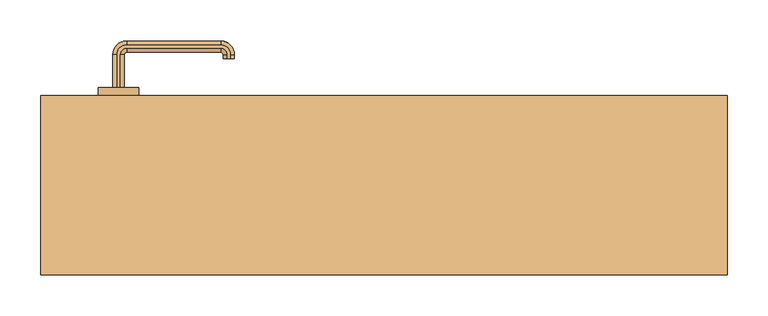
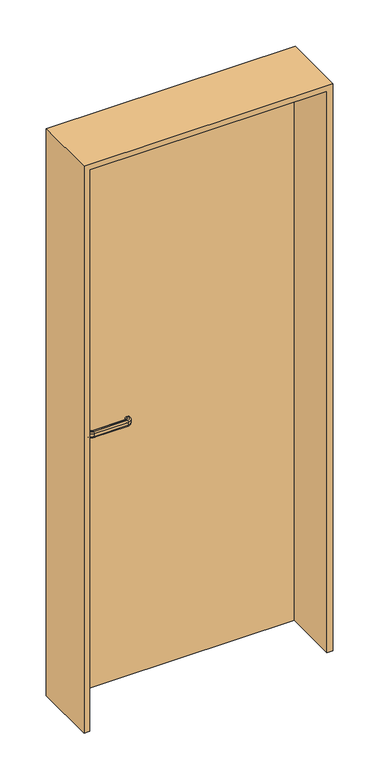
"""IFC4 building model written with IfcOpenShell, lengths in millimetres: door geometry, 鋼製_片開きマンション黒 : SD-1 w800h2000."""

from ifc_helpers import new_model, si_unit, point, frame, frame_2d, origin, origin_with_axes, place, context, project, spatial, polyline, circle_curve, ellipse_curve, trimmed, segment, composite_curve, outline, extrude, source, transform, mapped, element, save
from ifc_brep_helpers import plane_surface, cylinder_surface, revolved_surface, advanced_brep


def door_02215395(model_context):
    return source(origin(), model_context, "Body", "SolidModel", [
        advanced_brep(
        [(-327.0, 120.0, 960.0), (-332.0, 120.0, 955.0), (-332.0, 120.0, 945.0477623), (-327.0, 120.0, 940.0477623), (-323.0, 120.0, 940.0477623), (-318.0, 120.0, 945.0477623), (-318.0, 120.0, 955.0), (-323.0, 120.0, 960.0), (-327.0, 160.0, 960.0), (-332.0, 160.0, 955.0), (-332.0, 160.0, 945.0477623), (-327.0, 160.0, 940.0477623), (-315.0, 172.0, 940.0477623), (-200.0, 172.0, 940.0477623), (-188.0, 160.0, 940.0477623), (-188.0, 155.0, 940.0477623), (-192.0, 155.0, 940.0477623), (-192.0, 160.0, 940.0477623), (-200.0, 168.0, 940.0477623), (-315.0, 168.0, 940.0477623), (-323.0, 160.0, 940.0477623), (-318.0, 160.0, 945.0477623), (-318.0, 160.0, 955.0), (-323.0, 160.0, 960.0), (-315.0, 168.0, 960.0), (-200.0, 168.0, 960.0), (-192.0, 160.0, 960.0), (-192.0, 155.0, 960.0), (-188.0, 155.0, 960.0), (-188.0, 160.0, 960.0), (-200.0, 172.0, 960.0), (-315.0, 172.0, 960.0), (-315.0, 177.0, 955.0), (-315.0, 177.0, 945.0477623), (-315.0, 163.0, 945.0477623), (-315.0, 163.0, 955.0), (-200.0, 177.0, 955.0), (-200.0, 177.0, 945.0477623), (-200.0, 163.0, 945.0477623), (-200.0, 163.0, 955.0), (-183.0, 160.0, 955.0), (-183.0, 160.0, 945.0477623), (-197.0, 160.0, 945.0477623), (-197.0, 160.0, 955.0), (-197.0, 155.0, 955.0), (-197.0, 155.0, 945.0477623), (-183.0, 155.0, 945.0477623), (-183.0, 155.0, 955.0)],
        [
            (0, 1, circle_curve(frame((-327.0, 120.0, 955.0), z_axis=(0.0, -1.0, 0.0), x_axis=(-1.0, 0.0, 0.0)), 5.0)),
            (1, 2),
            (2, 3, circle_curve(frame((-327.0, 120.0, 945.0477623), z_axis=(0.0, -1.0, 0.0), x_axis=(-1.0, 0.0, 0.0)), 5.0)),
            (3, 4),
            (4, 5, circle_curve(frame((-323.0, 120.0, 945.0477623), z_axis=(0.0, -1.0, 0.0), x_axis=(-1.0, 0.0, 0.0)), 5.0)),
            (5, 6),
            (6, 7, circle_curve(frame((-323.0, 120.0, 955.0), z_axis=(0.0, -1.0, 0.0), x_axis=(-1.0, 0.0, 0.0)), 5.0)),
            (7, 0),
            (0, 8),
            (8, 9, circle_curve(frame((-327.0, 160.0, 955.0), z_axis=(0.0, -1.0, 0.0), x_axis=(-1.0, 0.0, 0.0)), 5.0)),
            (9, 1),
            (9, 10),
            (10, 2),
            (10, 11, circle_curve(frame((-327.0, 160.0, 945.0477623), z_axis=(0.0, -1.0, 0.0), x_axis=(-1.0, 0.0, 0.0)), 5.0)),
            (11, 3),
            (11, 12, circle_curve(frame((-315.0, 160.0, 940.0477623), z_axis=(0.0, 0.0, -1.0), x_axis=(-1.0, 0.0, 0.0)), 12.0)),
            (12, 13),
            (13, 14, circle_curve(frame((-200.0, 160.0, 940.0477623), z_axis=(0.0, 0.0, -1.0), x_axis=(0.0, 1.0, 0.0)), 12.0)),
            (14, 15),
            (15, 16),
            (16, 17),
            (17, 18, circle_curve(frame((-200.0, 160.0, 940.0477623), z_axis=(0.0, 0.0, 1.0), x_axis=(0.0, 1.0, 0.0)), 8.0)),
            (18, 19),
            (19, 20, circle_curve(frame((-315.0, 160.0, 940.0477623), z_axis=(0.0, 0.0, 1.0), x_axis=(-1.0, 0.0, 0.0)), 8.0)),
            (20, 4),
            (20, 21, circle_curve(frame((-323.0, 160.0, 945.0477623), z_axis=(0.0, -1.0, 0.0), x_axis=(-1.0, 0.0, 0.0)), 5.0)),
            (21, 5),
            (21, 22),
            (22, 6),
            (22, 23, circle_curve(frame((-323.0, 160.0, 955.0), z_axis=(0.0, -1.0, 0.0), x_axis=(-1.0, 0.0, 0.0)), 5.0)),
            (23, 7),
            (23, 24, circle_curve(frame((-315.0, 160.0, 960.0), z_axis=(0.0, 0.0, -1.0), x_axis=(-1.0, 0.0, 0.0)), 8.0)),
            (24, 25),
            (25, 26, circle_curve(frame((-200.0, 160.0, 960.0), z_axis=(0.0, 0.0, -1.0), x_axis=(0.0, 1.0, 0.0)), 8.0)),
            (26, 27),
            (27, 28),
            (28, 29),
            (29, 30, circle_curve(frame((-200.0, 160.0, 960.0), z_axis=(0.0, 0.0, 1.0), x_axis=(0.0, 1.0, 0.0)), 12.0)),
            (30, 31),
            (31, 8, circle_curve(frame((-315.0, 160.0, 960.0), z_axis=(0.0, 0.0, 1.0), x_axis=(-1.0, 0.0, 0.0)), 12.0)),
            (32, 9, circle_curve(frame((-315.0, 160.0, 955.0), z_axis=(0.0, 0.0, 1.0), x_axis=(-1.0, 0.0, 0.0)), 17.0)),
            (31, 32, circle_curve(frame((-315.0, 172.0, 955.0), z_axis=(-1.0, 0.0, 0.0), x_axis=(0.0, 1.0, 0.0)), 5.0)),
            (33, 10, circle_curve(frame((-315.0, 160.0, 945.0477623), z_axis=(0.0, 0.0, 1.0), x_axis=(-1.0, 0.0, 0.0)), 17.0)),
            (32, 33),
            (33, 12, circle_curve(frame((-315.0, 172.0, 945.0477623), z_axis=(-1.0, 0.0, 0.0), x_axis=(0.0, 1.0, 0.0)), 5.0)),
            (34, 21, circle_curve(frame((-315.0, 160.0, 945.0477623), z_axis=(0.0, 0.0, 1.0), x_axis=(-1.0, 0.0, 0.0)), 3.0)),
            (19, 34, circle_curve(frame((-315.0, 168.0, 945.0477623), z_axis=(-1.0, 0.0, 0.0), x_axis=(0.0, 1.0, 0.0)), 5.0)),
            (35, 22, circle_curve(frame((-315.0, 160.0, 955.0), z_axis=(0.0, 0.0, 1.0), x_axis=(-1.0, 0.0, 0.0)), 3.0)),
            (34, 35),
            (35, 24, circle_curve(frame((-315.0, 168.0, 955.0), z_axis=(-1.0, 0.0, 0.0), x_axis=(0.0, 1.0, 0.0)), 5.0)),
            (30, 36, circle_curve(frame((-200.0, 172.0, 955.0), z_axis=(-1.0, 0.0, 0.0), x_axis=(0.0, 1.0, 0.0)), 5.0)),
            (36, 32),
            (36, 37),
            (37, 33),
            (37, 13, circle_curve(frame((-200.0, 172.0, 945.0477623), z_axis=(-1.0, 0.0, 0.0), x_axis=(0.0, 1.0, 0.0)), 5.0)),
            (18, 38, circle_curve(frame((-200.0, 168.0, 945.0477623), z_axis=(-1.0, 0.0, 0.0), x_axis=(0.0, 1.0, 0.0)), 5.0)),
            (38, 34),
            (38, 39),
            (39, 35),
            (39, 25, circle_curve(frame((-200.0, 168.0, 955.0), z_axis=(-1.0, 0.0, 0.0), x_axis=(0.0, 1.0, 0.0)), 5.0)),
            (40, 36, circle_curve(frame((-200.0, 160.0, 955.0), z_axis=(0.0, 0.0, 1.0), x_axis=(0.0, 1.0, 0.0)), 17.0)),
            (29, 40, circle_curve(frame((-188.0, 160.0, 955.0), z_axis=(0.0, 1.0, 0.0), x_axis=(1.0, 0.0, 0.0)), 5.0)),
            (41, 37, circle_curve(frame((-200.0, 160.0, 945.0477623), z_axis=(0.0, 0.0, 1.0), x_axis=(0.0, 1.0, 0.0)), 17.0)),
            (40, 41),
            (41, 14, circle_curve(frame((-188.0, 160.0, 945.0477623), z_axis=(0.0, 1.0, 0.0), x_axis=(1.0, 0.0, 0.0)), 5.0)),
            (42, 38, circle_curve(frame((-200.0, 160.0, 945.0477623), z_axis=(0.0, 0.0, 1.0), x_axis=(0.0, 1.0, 0.0)), 3.0)),
            (17, 42, circle_curve(frame((-192.0, 160.0, 945.0477623), z_axis=(0.0, 1.0, 0.0), x_axis=(1.0, 0.0, 0.0)), 5.0)),
            (43, 39, circle_curve(frame((-200.0, 160.0, 955.0), z_axis=(0.0, 0.0, 1.0), x_axis=(0.0, 1.0, 0.0)), 3.0)),
            (42, 43),
            (43, 26, circle_curve(frame((-192.0, 160.0, 955.0), z_axis=(0.0, 1.0, 0.0), x_axis=(1.0, 0.0, 0.0)), 5.0)),
            (27, 44, circle_curve(frame((-192.0, 155.0, 955.0), z_axis=(0.0, -1.0, 0.0), x_axis=(1.0, 0.0, 0.0)), 5.0)),
            (44, 45),
            (45, 16, circle_curve(frame((-192.0, 155.0, 945.0477623), z_axis=(0.0, -1.0, 0.0), x_axis=(1.0, 0.0, 0.0)), 5.0)),
            (15, 46, circle_curve(frame((-188.0, 155.0, 945.0477623), z_axis=(0.0, -1.0, 0.0), x_axis=(1.0, 0.0, 0.0)), 5.0)),
            (46, 47),
            (47, 28, circle_curve(frame((-188.0, 155.0, 955.0), z_axis=(0.0, -1.0, 0.0), x_axis=(1.0, 0.0, 0.0)), 5.0)),
            (47, 40),
            (46, 41),
            (45, 42),
            (44, 43),
        ],
        [
            plane_surface(frame((-335.198039, 120.0, 950.0), z_axis=(0.0, -1.0, 0.0), x_axis=(0.0, 0.0, 1.0))),
            cylinder_surface(frame((-327.0, 120.0, 955.0), z_axis=(0.0, -1.0, 0.0), x_axis=(-1.0, 0.0, 0.0)), 5.0),
            plane_surface(frame((-332.0, 120.0, 955.0), z_axis=(-1.0, 0.0, 0.0), x_axis=(0.0, 1.0, 0.0))),
            cylinder_surface(frame((-327.0, 120.0, 945.0477623), z_axis=(0.0, -1.0, 0.0), x_axis=(-1.0, 0.0, 0.0)), 5.0),
            plane_surface(frame((-327.0, 120.0, 940.0477623), z_axis=(0.0, 0.0, -1.0), x_axis=(0.0, 1.0, 0.0))),
            cylinder_surface(frame((-323.0, 120.0, 945.0477623), z_axis=(0.0, -1.0, 0.0), x_axis=(-1.0, 0.0, 0.0)), 5.0),
            plane_surface(frame((-318.0, 120.0, 945.0477623), z_axis=(1.0, 0.0, 0.0), x_axis=(0.0, 1.0, 0.0))),
            cylinder_surface(frame((-323.0, 120.0, 955.0), z_axis=(0.0, -1.0, 0.0), x_axis=(-1.0, 0.0, 0.0)), 5.0),
            plane_surface(frame((-323.0, 120.0, 960.0), z_axis=(0.0, 0.0, 1.0), x_axis=(0.0, 1.0, 0.0))),
            revolved_surface(trimmed(ellipse_curve(frame((-327.0, 160.0, 955.0), z_axis=(0.0, -1.0, 0.0), x_axis=(-1.0, 0.0, 0.0)), 5.0, 5.0), [point((-327.0, 160.0, 960.0))], [point((-332.0, 160.0, 955.0))], True, "CARTESIAN"), (-315.0, 160.0, 950.0), (0.0, 0.0, -1.0)),
            cylinder_surface(frame((-315.0, 160.0, 950.0), z_axis=(0.0, 0.0, -1.0), x_axis=(-1.0, 0.0, 0.0)), 17.0),
            revolved_surface(trimmed(ellipse_curve(frame((-327.0, 160.0, 945.0477623), z_axis=(0.0, -1.0, 0.0), x_axis=(-1.0, 0.0, 0.0)), 5.0, 5.0), [point((-332.0, 160.0, 945.0477623))], [point((-327.0, 160.0, 940.0477623))], True, "CARTESIAN"), (-315.0, 160.0, 950.0), (0.0, 0.0, -1.0)),
            revolved_surface(trimmed(ellipse_curve(frame((-323.0, 160.0, 945.0477623), z_axis=(0.0, -1.0, 0.0), x_axis=(-1.0, 0.0, 0.0)), 5.0, 5.0), [point((-323.0, 160.0, 940.0477623))], [point((-318.0, 160.0, 945.0477623))], True, "CARTESIAN"), (-315.0, 160.0, 950.0), (0.0, 0.0, -1.0)),
            revolved_surface(polyline([(-318.0, 160.0, 945.0477623), (-318.0, 160.0, 955.0)]), (-315.0, 160.0, 950.0), (0.0, 0.0, -1.0)),
            revolved_surface(trimmed(ellipse_curve(frame((-323.0, 160.0, 955.0), z_axis=(0.0, -1.0, 0.0), x_axis=(-1.0, 0.0, 0.0)), 5.0, 5.0), [point((-318.0, 160.0, 955.0))], [point((-323.0, 160.0, 960.0))], True, "CARTESIAN"), (-315.0, 160.0, 950.0), (0.0, 0.0, -1.0)),
            cylinder_surface(frame((-315.0, 172.0, 955.0), z_axis=(-1.0, 0.0, 0.0), x_axis=(0.0, 1.0, 0.0)), 5.0),
            plane_surface(frame((-315.0, 177.0, 955.0), z_axis=(0.0, 1.0, 0.0), x_axis=(1.0, 0.0, 0.0))),
            cylinder_surface(frame((-315.0, 172.0, 945.0477623), z_axis=(-1.0, 0.0, 0.0), x_axis=(0.0, 1.0, 0.0)), 5.0),
            cylinder_surface(frame((-315.0, 168.0, 945.0477623), z_axis=(-1.0, 0.0, 0.0), x_axis=(0.0, 1.0, 0.0)), 5.0),
            plane_surface(frame((-315.0, 163.0, 945.0477623), z_axis=(0.0, -1.0, 0.0), x_axis=(1.0, 0.0, 0.0))),
            cylinder_surface(frame((-315.0, 168.0, 955.0), z_axis=(-1.0, 0.0, 0.0), x_axis=(0.0, 1.0, 0.0)), 5.0),
            revolved_surface(trimmed(ellipse_curve(frame((-200.0, 172.0, 955.0), z_axis=(-1.0, 0.0, 0.0), x_axis=(0.0, 1.0, 0.0)), 5.0, 5.0), [point((-200.0, 172.0, 960.0))], [point((-200.0, 177.0, 955.0))], True, "CARTESIAN"), (-200.0, 160.0, 950.0), (0.0, 0.0, -1.0)),
            cylinder_surface(frame((-200.0, 160.0, 950.0), z_axis=(0.0, 0.0, -1.0), x_axis=(0.0, 1.0, 0.0)), 17.0),
            revolved_surface(trimmed(ellipse_curve(frame((-200.0, 172.0, 945.0477623), z_axis=(-1.0, 0.0, 0.0), x_axis=(0.0, 1.0, 0.0)), 5.0, 5.0), [point((-200.0, 177.0, 945.0477623))], [point((-200.0, 172.0, 940.0477623))], True, "CARTESIAN"), (-200.0, 160.0, 950.0), (0.0, 0.0, -1.0)),
            revolved_surface(trimmed(ellipse_curve(frame((-200.0, 168.0, 945.0477623), z_axis=(-1.0, 0.0, 0.0), x_axis=(0.0, 1.0, 0.0)), 5.0, 5.0), [point((-200.0, 168.0, 940.0477623))], [point((-200.0, 163.0, 945.0477623))], True, "CARTESIAN"), (-200.0, 160.0, 950.0), (0.0, 0.0, -1.0)),
            revolved_surface(polyline([(-200.0, 163.0, 945.0477623), (-200.0, 163.0, 955.0)]), (-200.0, 160.0, 950.0), (0.0, 0.0, -1.0)),
            revolved_surface(trimmed(ellipse_curve(frame((-200.0, 168.0, 955.0), z_axis=(-1.0, 0.0, 0.0), x_axis=(0.0, 1.0, 0.0)), 5.0, 5.0), [point((-200.0, 163.0, 955.0))], [point((-200.0, 168.0, 960.0))], True, "CARTESIAN"), (-200.0, 160.0, 950.0), (0.0, 0.0, -1.0)),
            plane_surface(frame((-200.198039, 155.0, 950.0), z_axis=(0.0, -1.0, 0.0), x_axis=(0.0, 0.0, -1.0))),
            cylinder_surface(frame((-188.0, 160.0, 955.0), z_axis=(0.0, 1.0, 0.0), x_axis=(1.0, 0.0, 0.0)), 5.0),
            plane_surface(frame((-183.0, 160.0, 955.0), z_axis=(1.0, 0.0, 0.0), x_axis=(0.0, -1.0, 0.0))),
            cylinder_surface(frame((-188.0, 160.0, 945.0477623), z_axis=(0.0, 1.0, 0.0), x_axis=(1.0, 0.0, 0.0)), 5.0),
            cylinder_surface(frame((-192.0, 160.0, 945.0477623), z_axis=(0.0, 1.0, 0.0), x_axis=(1.0, 0.0, 0.0)), 5.0),
            plane_surface(frame((-197.0, 160.0, 945.0477623), z_axis=(-1.0, 0.0, 0.0), x_axis=(0.0, -1.0, 0.0))),
            cylinder_surface(frame((-192.0, 160.0, 955.0), z_axis=(0.0, 1.0, 0.0), x_axis=(1.0, 0.0, 0.0)), 5.0),
        ],
        [
            (0, [[1, 2, 3, 4, 5, 6, 7, 8]]),
            (1, [[-1, 9, 10, 11]]),
            (2, [[-2, -11, 12, 13]]),
            (3, [[-3, -13, 14, 15]]),
            (4, [[-4, -15, 16, 17, 18, 19, 20, 21, 22, 23, 24, 25]]),
            (5, [[-5, -25, 26, 27]]),
            (6, [[-6, -27, 28, 29]]),
            (7, [[-7, -29, 30, 31]]),
            (8, [[-8, -31, 32, 33, 34, 35, 36, 37, 38, 39, 40, -9]]),
            (9, [[41, -10, -40, 42]]),
            (10, [[43, -12, -41, 44]]),
            (11, [[-16, -14, -43, 45]]),
            (12, [[46, -26, -24, 47]]),
            (13, [[48, -28, -46, 49]]),
            (14, [[-32, -30, -48, 50]]),
            (15, [[-42, -39, 51, 52]]),
            (16, [[-44, -52, 53, 54]]),
            (17, [[-45, -54, 55, -17]]),
            (18, [[-47, -23, 56, 57]]),
            (19, [[-49, -57, 58, 59]]),
            (20, [[-50, -59, 60, -33]]),
            (21, [[61, -51, -38, 62]]),
            (22, [[63, -53, -61, 64]]),
            (23, [[-18, -55, -63, 65]]),
            (24, [[66, -56, -22, 67]]),
            (25, [[68, -58, -66, 69]]),
            (26, [[-34, -60, -68, 70]]),
            (27, [[-36, 71, 72, 73, -20, 74, 75, 76]]),
            (28, [[-62, -37, -76, 77]]),
            (29, [[-64, -77, -75, 78]]),
            (30, [[-65, -78, -74, -19]]),
            (31, [[-67, -21, -73, 79]]),
            (32, [[-69, -79, -72, 80]]),
            (33, [[-70, -80, -71, -35]]),
        ],
    ),
        advanced_brep(
        [(-323.0, 70.0, 940.0), (-327.0, 70.0, 940.0), (-332.0, 70.0, 945.0), (-332.0, 70.0, 955.0), (-327.0, 70.0, 960.0), (-323.0, 70.0, 960.0), (-318.0, 70.0, 955.0), (-318.0, 70.0, 945.0), (-323.0, 30.0, 940.0), (-315.0, 22.0, 940.0), (-200.0, 22.0, 940.0), (-192.0, 30.0, 940.0), (-192.0, 35.0, 940.0), (-188.0, 35.0, 940.0), (-188.0, 30.0, 940.0), (-200.0, 18.0, 940.0), (-315.0, 18.0, 940.0), (-327.0, 30.0, 940.0), (-332.0, 30.0, 945.0), (-332.0, 30.0, 955.0), (-327.0, 30.0, 960.0), (-315.0, 18.0, 960.0), (-200.0, 18.0, 960.0), (-188.0, 30.0, 960.0), (-188.0, 35.0, 960.0), (-192.0, 35.0, 960.0), (-192.0, 30.0, 960.0), (-200.0, 22.0, 960.0), (-315.0, 22.0, 960.0), (-323.0, 30.0, 960.0), (-318.0, 30.0, 955.0), (-318.0, 30.0, 945.0), (-315.0, 13.0, 945.0), (-315.0, 13.0, 955.0), (-315.0, 27.0, 955.0), (-315.0, 27.0, 945.0), (-200.0, 13.0, 945.0), (-200.0, 13.0, 955.0), (-200.0, 27.0, 955.0), (-200.0, 27.0, 945.0), (-183.0, 30.0, 945.0), (-183.0, 30.0, 955.0), (-197.0, 30.0, 955.0), (-197.0, 30.0, 945.0), (-197.0, 35.0, 945.0), (-197.0, 35.0, 955.0), (-183.0, 35.0, 955.0), (-183.0, 35.0, 945.0)],
        [
            (0, 1),
            (1, 2, circle_curve(frame((-327.0, 70.0, 945.0), z_axis=(0.0, 1.0, 0.0), x_axis=(1.0, 0.0, 0.0)), 5.0)),
            (2, 3),
            (3, 4, circle_curve(frame((-327.0, 70.0, 955.0), z_axis=(0.0, 1.0, 0.0), x_axis=(1.0, 0.0, 0.0)), 5.0)),
            (4, 5),
            (5, 6, circle_curve(frame((-323.0, 70.0, 955.0), z_axis=(0.0, 1.0, 0.0), x_axis=(1.0, 0.0, 0.0)), 5.0)),
            (6, 7),
            (7, 0, circle_curve(frame((-323.0, 70.0, 945.0), z_axis=(0.0, 1.0, 0.0), x_axis=(1.0, 0.0, 0.0)), 5.0)),
            (0, 8),
            (8, 9, circle_curve(frame((-315.0, 30.0, 940.0), z_axis=(0.0, 0.0, 1.0), x_axis=(-1.0, 0.0, 0.0)), 8.0)),
            (9, 10),
            (10, 11, circle_curve(frame((-200.0, 30.0, 940.0), z_axis=(0.0, 0.0, 1.0), x_axis=(0.0, -1.0, 0.0)), 8.0)),
            (11, 12),
            (12, 13),
            (13, 14),
            (14, 15, circle_curve(frame((-200.0, 30.0, 940.0), z_axis=(0.0, 0.0, -1.0), x_axis=(0.0, -1.0, 0.0)), 12.0)),
            (15, 16),
            (16, 17, circle_curve(frame((-315.0, 30.0, 940.0), z_axis=(0.0, 0.0, -1.0), x_axis=(-1.0, 0.0, 0.0)), 12.0)),
            (17, 1),
            (17, 18, circle_curve(frame((-327.0, 30.0, 945.0), z_axis=(0.0, 1.0, 0.0), x_axis=(1.0, 0.0, 0.0)), 5.0)),
            (18, 2),
            (18, 19),
            (19, 3),
            (19, 20, circle_curve(frame((-327.0, 30.0, 955.0), z_axis=(0.0, 1.0, 0.0), x_axis=(1.0, 0.0, 0.0)), 5.0)),
            (20, 4),
            (20, 21, circle_curve(frame((-315.0, 30.0, 960.0), z_axis=(0.0, 0.0, 1.0), x_axis=(-1.0, 0.0, 0.0)), 12.0)),
            (21, 22),
            (22, 23, circle_curve(frame((-200.0, 30.0, 960.0), z_axis=(0.0, 0.0, 1.0), x_axis=(0.0, -1.0, 0.0)), 12.0)),
            (23, 24),
            (24, 25),
            (25, 26),
            (26, 27, circle_curve(frame((-200.0, 30.0, 960.0), z_axis=(0.0, 0.0, -1.0), x_axis=(0.0, -1.0, 0.0)), 8.0)),
            (27, 28),
            (28, 29, circle_curve(frame((-315.0, 30.0, 960.0), z_axis=(0.0, 0.0, -1.0), x_axis=(-1.0, 0.0, 0.0)), 8.0)),
            (29, 5),
            (29, 30, circle_curve(frame((-323.0, 30.0, 955.0), z_axis=(0.0, 1.0, 0.0), x_axis=(1.0, 0.0, 0.0)), 5.0)),
            (30, 6),
            (30, 31),
            (31, 7),
            (31, 8, circle_curve(frame((-323.0, 30.0, 945.0), z_axis=(0.0, 1.0, 0.0), x_axis=(1.0, 0.0, 0.0)), 5.0)),
            (32, 18, circle_curve(frame((-315.0, 30.0, 945.0), z_axis=(0.0, 0.0, -1.0), x_axis=(-1.0, 0.0, 0.0)), 17.0)),
            (16, 32, circle_curve(frame((-315.0, 18.0, 945.0), z_axis=(-1.0, 0.0, 0.0), x_axis=(0.0, 1.0, 0.0)), 5.0)),
            (33, 19, circle_curve(frame((-315.0, 30.0, 955.0), z_axis=(0.0, 0.0, -1.0), x_axis=(-1.0, 0.0, 0.0)), 17.0)),
            (32, 33),
            (33, 21, circle_curve(frame((-315.0, 18.0, 955.0), z_axis=(-1.0, 0.0, 0.0), x_axis=(0.0, 1.0, 0.0)), 5.0)),
            (34, 30, circle_curve(frame((-315.0, 30.0, 955.0), z_axis=(0.0, 0.0, -1.0), x_axis=(-1.0, 0.0, 0.0)), 3.0)),
            (28, 34, circle_curve(frame((-315.0, 22.0, 955.0), z_axis=(-1.0, 0.0, 0.0), x_axis=(0.0, 1.0, 0.0)), 5.0)),
            (35, 31, circle_curve(frame((-315.0, 30.0, 945.0), z_axis=(0.0, 0.0, -1.0), x_axis=(-1.0, 0.0, 0.0)), 3.0)),
            (34, 35),
            (35, 9, circle_curve(frame((-315.0, 22.0, 945.0), z_axis=(-1.0, 0.0, 0.0), x_axis=(0.0, 1.0, 0.0)), 5.0)),
            (15, 36, circle_curve(frame((-200.0, 18.0, 945.0), z_axis=(-1.0, 0.0, 0.0), x_axis=(0.0, 1.0, 0.0)), 5.0)),
            (36, 32),
            (36, 37),
            (37, 33),
            (37, 22, circle_curve(frame((-200.0, 18.0, 955.0), z_axis=(-1.0, 0.0, 0.0), x_axis=(0.0, 1.0, 0.0)), 5.0)),
            (27, 38, circle_curve(frame((-200.0, 22.0, 955.0), z_axis=(-1.0, 0.0, 0.0), x_axis=(0.0, 1.0, 0.0)), 5.0)),
            (38, 34),
            (38, 39),
            (39, 35),
            (39, 10, circle_curve(frame((-200.0, 22.0, 945.0), z_axis=(-1.0, 0.0, 0.0), x_axis=(0.0, 1.0, 0.0)), 5.0)),
            (40, 36, circle_curve(frame((-200.0, 30.0, 945.0), z_axis=(0.0, 0.0, -1.0), x_axis=(0.0, -1.0, 0.0)), 17.0)),
            (14, 40, circle_curve(frame((-188.0, 30.0, 945.0), z_axis=(0.0, -1.0, 0.0), x_axis=(-1.0, 0.0, 0.0)), 5.0)),
            (41, 37, circle_curve(frame((-200.0, 30.0, 955.0), z_axis=(0.0, 0.0, -1.0), x_axis=(0.0, -1.0, 0.0)), 17.0)),
            (40, 41),
            (41, 23, circle_curve(frame((-188.0, 30.0, 955.0), z_axis=(0.0, -1.0, 0.0), x_axis=(-1.0, 0.0, 0.0)), 5.0)),
            (42, 38, circle_curve(frame((-200.0, 30.0, 955.0), z_axis=(0.0, 0.0, -1.0), x_axis=(0.0, -1.0, 0.0)), 3.0)),
            (26, 42, circle_curve(frame((-192.0, 30.0, 955.0), z_axis=(0.0, -1.0, 0.0), x_axis=(-1.0, 0.0, 0.0)), 5.0)),
            (43, 39, circle_curve(frame((-200.0, 30.0, 945.0), z_axis=(0.0, 0.0, -1.0), x_axis=(0.0, -1.0, 0.0)), 3.0)),
            (42, 43),
            (43, 11, circle_curve(frame((-192.0, 30.0, 945.0), z_axis=(0.0, -1.0, 0.0), x_axis=(-1.0, 0.0, 0.0)), 5.0)),
            (12, 44, circle_curve(frame((-192.0, 35.0, 945.0), z_axis=(0.0, 1.0, 0.0), x_axis=(-1.0, 0.0, 0.0)), 5.0)),
            (44, 45),
            (45, 25, circle_curve(frame((-192.0, 35.0, 955.0), z_axis=(0.0, 1.0, 0.0), x_axis=(-1.0, 0.0, 0.0)), 5.0)),
            (24, 46, circle_curve(frame((-188.0, 35.0, 955.0), z_axis=(0.0, 1.0, 0.0), x_axis=(-1.0, 0.0, 0.0)), 5.0)),
            (46, 47),
            (47, 13, circle_curve(frame((-188.0, 35.0, 945.0), z_axis=(0.0, 1.0, 0.0), x_axis=(-1.0, 0.0, 0.0)), 5.0)),
            (47, 40),
            (46, 41),
            (45, 42),
            (44, 43),
        ],
        [
            plane_surface(frame((-335.198039, 70.0, 950.0), z_axis=(0.0, 1.0, 0.0), x_axis=(0.0, 0.0, -1.0))),
            plane_surface(frame((-323.0, 70.0, 940.0), z_axis=(0.0, 0.0, -1.0), x_axis=(0.0, -1.0, 0.0))),
            cylinder_surface(frame((-327.0, 70.0, 945.0), z_axis=(0.0, 1.0, 0.0), x_axis=(1.0, 0.0, 0.0)), 5.0),
            plane_surface(frame((-332.0, 70.0, 945.0), z_axis=(-1.0, 0.0, 0.0), x_axis=(0.0, -1.0, 0.0))),
            cylinder_surface(frame((-327.0, 70.0, 955.0), z_axis=(0.0, 1.0, 0.0), x_axis=(1.0, 0.0, 0.0)), 5.0),
            plane_surface(frame((-327.0, 70.0, 960.0), z_axis=(0.0, 0.0, 1.0), x_axis=(0.0, -1.0, 0.0))),
            cylinder_surface(frame((-323.0, 70.0, 955.0), z_axis=(0.0, 1.0, 0.0), x_axis=(1.0, 0.0, 0.0)), 5.0),
            plane_surface(frame((-318.0, 70.0, 955.0), z_axis=(1.0, 0.0, 0.0), x_axis=(0.0, -1.0, 0.0))),
            cylinder_surface(frame((-323.0, 70.0, 945.0), z_axis=(0.0, 1.0, 0.0), x_axis=(1.0, 0.0, 0.0)), 5.0),
            revolved_surface(trimmed(ellipse_curve(frame((-327.0, 30.0, 945.0), z_axis=(0.0, 1.0, 0.0), x_axis=(1.0, 0.0, 0.0)), 5.0, 5.0), [point((-327.0, 30.0, 940.0))], [point((-332.0, 30.0, 945.0))], True, "CARTESIAN"), (-315.0, 30.0, 950.0), (0.0, 0.0, 1.0)),
            cylinder_surface(frame((-315.0, 30.0, 950.0), z_axis=(0.0, 0.0, 1.0), x_axis=(-1.0, 0.0, 0.0)), 17.0),
            revolved_surface(trimmed(ellipse_curve(frame((-327.0, 30.0, 955.0), z_axis=(0.0, 1.0, 0.0), x_axis=(1.0, 0.0, 0.0)), 5.0, 5.0), [point((-332.0, 30.0, 955.0))], [point((-327.0, 30.0, 960.0))], True, "CARTESIAN"), (-315.0, 30.0, 950.0), (0.0, 0.0, 1.0)),
            revolved_surface(trimmed(ellipse_curve(frame((-323.0, 30.0, 955.0), z_axis=(0.0, 1.0, 0.0), x_axis=(1.0, 0.0, 0.0)), 5.0, 5.0), [point((-323.0, 30.0, 960.0))], [point((-318.0, 30.0, 955.0))], True, "CARTESIAN"), (-315.0, 30.0, 950.0), (0.0, 0.0, 1.0)),
            revolved_surface(polyline([(-318.0, 30.0, 955.0), (-318.0, 30.0, 945.0)]), (-315.0, 30.0, 950.0), (0.0, 0.0, 1.0)),
            revolved_surface(trimmed(ellipse_curve(frame((-323.0, 30.0, 945.0), z_axis=(0.0, 1.0, 0.0), x_axis=(1.0, 0.0, 0.0)), 5.0, 5.0), [point((-318.0, 30.0, 945.0))], [point((-323.0, 30.0, 940.0))], True, "CARTESIAN"), (-315.0, 30.0, 950.0), (0.0, 0.0, 1.0)),
            cylinder_surface(frame((-315.0, 18.0, 945.0), z_axis=(-1.0, 0.0, 0.0), x_axis=(0.0, 1.0, 0.0)), 5.0),
            plane_surface(frame((-315.0, 13.0, 945.0), z_axis=(0.0, -1.0, 0.0), x_axis=(1.0, 0.0, 0.0))),
            cylinder_surface(frame((-315.0, 18.0, 955.0), z_axis=(-1.0, 0.0, 0.0), x_axis=(0.0, 1.0, 0.0)), 5.0),
            cylinder_surface(frame((-315.0, 22.0, 955.0), z_axis=(-1.0, 0.0, 0.0), x_axis=(0.0, 1.0, 0.0)), 5.0),
            plane_surface(frame((-315.0, 27.0, 955.0), z_axis=(0.0, 1.0, 0.0), x_axis=(1.0, 0.0, 0.0))),
            cylinder_surface(frame((-315.0, 22.0, 945.0), z_axis=(-1.0, 0.0, 0.0), x_axis=(0.0, 1.0, 0.0)), 5.0),
            revolved_surface(trimmed(ellipse_curve(frame((-200.0, 18.0, 945.0), z_axis=(-1.0, 0.0, 0.0), x_axis=(0.0, 1.0, 0.0)), 5.0, 5.0), [point((-200.0, 18.0, 940.0))], [point((-200.0, 13.0, 945.0))], True, "CARTESIAN"), (-200.0, 30.0, 950.0), (0.0, 0.0, 1.0)),
            cylinder_surface(frame((-200.0, 30.0, 950.0), z_axis=(0.0, 0.0, 1.0), x_axis=(0.0, -1.0, 0.0)), 17.0),
            revolved_surface(trimmed(ellipse_curve(frame((-200.0, 18.0, 955.0), z_axis=(-1.0, 0.0, 0.0), x_axis=(0.0, 1.0, 0.0)), 5.0, 5.0), [point((-200.0, 13.0, 955.0))], [point((-200.0, 18.0, 960.0))], True, "CARTESIAN"), (-200.0, 30.0, 950.0), (0.0, 0.0, 1.0)),
            revolved_surface(trimmed(ellipse_curve(frame((-200.0, 22.0, 955.0), z_axis=(-1.0, 0.0, 0.0), x_axis=(0.0, 1.0, 0.0)), 5.0, 5.0), [point((-200.0, 22.0, 960.0))], [point((-200.0, 27.0, 955.0))], True, "CARTESIAN"), (-200.0, 30.0, 950.0), (0.0, 0.0, 1.0)),
            revolved_surface(polyline([(-200.0, 27.0, 955.0), (-200.0, 27.0, 945.0)]), (-200.0, 30.0, 950.0), (0.0, 0.0, 1.0)),
            revolved_surface(trimmed(ellipse_curve(frame((-200.0, 22.0, 945.0), z_axis=(-1.0, 0.0, 0.0), x_axis=(0.0, 1.0, 0.0)), 5.0, 5.0), [point((-200.0, 27.0, 945.0))], [point((-200.0, 22.0, 940.0))], True, "CARTESIAN"), (-200.0, 30.0, 950.0), (0.0, 0.0, 1.0)),
            plane_surface(frame((-200.198039, 35.0, 950.0), z_axis=(0.0, 1.0, 0.0), x_axis=(0.0, 0.0, 1.0))),
            cylinder_surface(frame((-188.0, 30.0, 945.0), z_axis=(0.0, -1.0, 0.0), x_axis=(-1.0, 0.0, 0.0)), 5.0),
            plane_surface(frame((-183.0, 30.0, 945.0), z_axis=(1.0, 0.0, 0.0), x_axis=(0.0, 1.0, 0.0))),
            cylinder_surface(frame((-188.0, 30.0, 955.0), z_axis=(0.0, -1.0, 0.0), x_axis=(-1.0, 0.0, 0.0)), 5.0),
            cylinder_surface(frame((-192.0, 30.0, 955.0), z_axis=(0.0, -1.0, 0.0), x_axis=(-1.0, 0.0, 0.0)), 5.0),
            plane_surface(frame((-197.0, 30.0, 955.0), z_axis=(-1.0, 0.0, 0.0), x_axis=(0.0, 1.0, 0.0))),
            cylinder_surface(frame((-192.0, 30.0, 945.0), z_axis=(0.0, -1.0, 0.0), x_axis=(-1.0, 0.0, 0.0)), 5.0),
        ],
        [
            (0, [[1, 2, 3, 4, 5, 6, 7, 8]]),
            (1, [[-1, 9, 10, 11, 12, 13, 14, 15, 16, 17, 18, 19]]),
            (2, [[-2, -19, 20, 21]]),
            (3, [[-3, -21, 22, 23]]),
            (4, [[-4, -23, 24, 25]]),
            (5, [[-5, -25, 26, 27, 28, 29, 30, 31, 32, 33, 34, 35]]),
            (6, [[-6, -35, 36, 37]]),
            (7, [[-7, -37, 38, 39]]),
            (8, [[-8, -39, 40, -9]]),
            (9, [[41, -20, -18, 42]]),
            (10, [[43, -22, -41, 44]]),
            (11, [[-26, -24, -43, 45]]),
            (12, [[46, -36, -34, 47]]),
            (13, [[48, -38, -46, 49]]),
            (14, [[-10, -40, -48, 50]]),
            (15, [[-42, -17, 51, 52]]),
            (16, [[-44, -52, 53, 54]]),
            (17, [[-45, -54, 55, -27]]),
            (18, [[-47, -33, 56, 57]]),
            (19, [[-49, -57, 58, 59]]),
            (20, [[-50, -59, 60, -11]]),
            (21, [[61, -51, -16, 62]]),
            (22, [[63, -53, -61, 64]]),
            (23, [[-28, -55, -63, 65]]),
            (24, [[66, -56, -32, 67]]),
            (25, [[68, -58, -66, 69]]),
            (26, [[-12, -60, -68, 70]]),
            (27, [[71, 72, 73, -30, 74, 75, 76, -14]]),
            (28, [[-62, -15, -76, 77]]),
            (29, [[-64, -77, -75, 78]]),
            (30, [[-65, -78, -74, -29]]),
            (31, [[-67, -31, -73, 79]]),
            (32, [[-69, -79, -72, 80]]),
            (33, [[-70, -80, -71, -13]]),
        ],
    ),
        extrude(outline(composite_curve([segment(trimmed(circle_curve(frame_2d((950.0, -325.0)), 25.0), [point((950.0, -350.0))], [point((950.0, -300.0))], False, "CARTESIAN"), True, "CONTINUOUS"), segment(trimmed(circle_curve(frame_2d((950.0, -325.0)), 25.0), [point((950.0, -300.0))], [point((950.0, -350.0))], False, "CARTESIAN"), True, "CONTINUOUS")], self_intersect=False)), frame((0.0, 110.0, 0.0), z_axis=(0.0, 1.0, 0.0), x_axis=(0.0, 0.0, 1.0)), (0.0, 0.0, 1.0), 10.0),
        extrude(outline(composite_curve([segment(trimmed(circle_curve(frame_2d((950.0, -325.0)), 25.0), [point((950.0, -350.0))], [point((950.0, -300.0))], False, "CARTESIAN"), True, "CONTINUOUS"), segment(trimmed(circle_curve(frame_2d((950.0, -325.0)), 25.0), [point((950.0, -300.0))], [point((950.0, -350.0))], False, "CARTESIAN"), True, "CONTINUOUS")], self_intersect=False)), frame((0.0, 70.0, 0.0), z_axis=(0.0, 1.0, 0.0), x_axis=(0.0, 0.0, 1.0)), (0.0, 0.0, 1.0), 10.0),
        extrude(outline(polyline([(2020.0, -420.0), (0.0, -420.0), (0.0, -400.0), (2000.0, -400.0), (2000.0, 400.0), (0.0, 400.0), (0.0, 420.0), (2020.0, 420.0), (2020.0, -420.0)])), frame((0.0, -110.0, 0.0), z_axis=(0.0, 1.0, 0.0), x_axis=(0.0, 0.0, 1.0)), (0.0, 0.0, 1.0), 220.0),
        extrude(outline(polyline([(400.0, 80.0), (-400.0, 80.0), (-400.0, 110.0), (400.0, 110.0), (400.0, 80.0)])), origin_with_axes(), (0.0, 0.0, 1.0), 2000.0),
    ])


if __name__ == "__main__":
    model = new_model("IFC4")
    model_context = context("Model", 3, world=origin())
    ifc_project = project(units=[si_unit("LENGTHUNIT", "METRE", prefix="MILLI")], contexts=[model_context])
    site = spatial("IfcSite", under=ifc_project)
    building = spatial("IfcBuilding", under=site)
    placement = place(None, origin())
    door_shape = door_02215395(model_context)
    element("IfcDoor", 1, ObjectType="鋼製_片開きマンション黒 : SD-1 w800h2000", at=placement, inside=building, context=model_context, shape_type="MappedRepresentation", body=[
        mapped(door_shape, transform((0.0, 0.0, 0.0), x_axis=(1.0, 0.0, 0.0), y_axis=(0.0, 1.0, 0.0), z_axis=(0.0, 0.0, 1.0))),
    ])
    save(model, "model.ifc")
